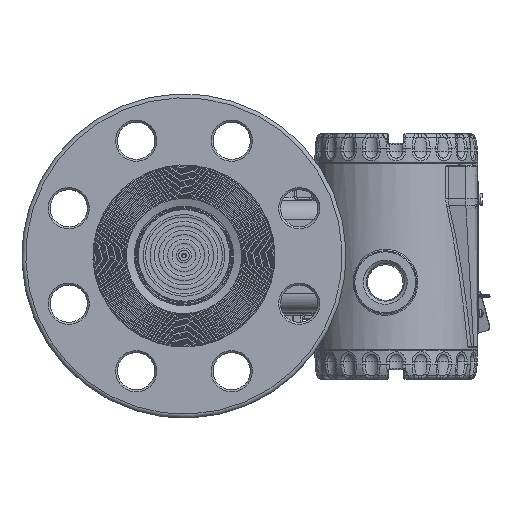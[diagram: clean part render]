
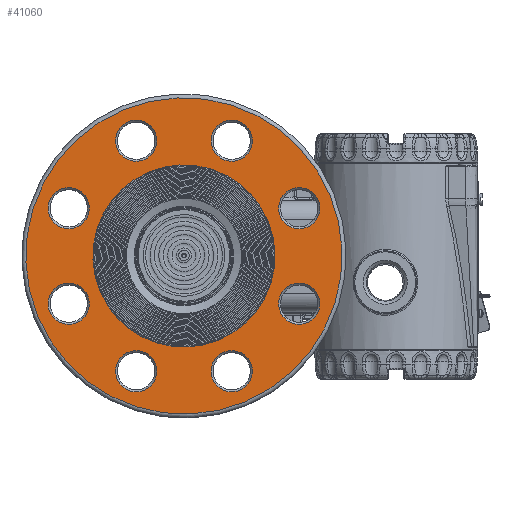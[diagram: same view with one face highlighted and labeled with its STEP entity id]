
A CAD part, top view. The second image highlights one B-rep face of the part: STEP entity #41060.
In plain terms, the highlighted planar face has unit normal (0, 0, 1).
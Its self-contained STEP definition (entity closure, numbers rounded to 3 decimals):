
#690=FACE_BOUND('',#6795,.T.);
#691=FACE_BOUND('',#6796,.T.);
#692=FACE_BOUND('',#6797,.T.);
#693=FACE_BOUND('',#6798,.T.);
#694=FACE_BOUND('',#6799,.T.);
#695=FACE_BOUND('',#6800,.T.);
#696=FACE_BOUND('',#6801,.T.);
#697=FACE_BOUND('',#6802,.T.);
#698=FACE_BOUND('',#6803,.T.);
#2664=PLANE('',#45633);
#4049=FACE_OUTER_BOUND('',#6794,.T.);
#6794=EDGE_LOOP('',(#31290));
#6795=EDGE_LOOP('',(#31291,#31292));
#6796=EDGE_LOOP('',(#31293));
#6797=EDGE_LOOP('',(#31294));
#6798=EDGE_LOOP('',(#31295));
#6799=EDGE_LOOP('',(#31296));
#6800=EDGE_LOOP('',(#31297));
#6801=EDGE_LOOP('',(#31298));
#6802=EDGE_LOOP('',(#31299));
#6803=EDGE_LOOP('',(#31300));
#13537=CIRCLE('',#45630,80.5);
#13539=CIRCLE('',#45634,46.35);
#13540=CIRCLE('',#45635,46.35);
#13541=CIRCLE('',#45636,10.5);
#13542=CIRCLE('',#45637,10.5);
#13543=CIRCLE('',#45638,10.5);
#13544=CIRCLE('',#45639,10.5);
#13545=CIRCLE('',#45640,10.5);
#13546=CIRCLE('',#45641,10.5);
#13547=CIRCLE('',#45642,10.5);
#13548=CIRCLE('',#45643,10.5);
#18007=VERTEX_POINT('',#72568);
#18009=VERTEX_POINT('',#72576);
#18010=VERTEX_POINT('',#72577);
#18011=VERTEX_POINT('',#72580);
#18012=VERTEX_POINT('',#72582);
#18013=VERTEX_POINT('',#72584);
#18014=VERTEX_POINT('',#72586);
#18015=VERTEX_POINT('',#72588);
#18016=VERTEX_POINT('',#72590);
#18017=VERTEX_POINT('',#72592);
#18018=VERTEX_POINT('',#72594);
#22730=EDGE_CURVE('',#18007,#18007,#13537,.T.);
#22733=EDGE_CURVE('',#18009,#18010,#13539,.T.);
#22734=EDGE_CURVE('',#18010,#18009,#13540,.T.);
#22735=EDGE_CURVE('',#18011,#18011,#13541,.T.);
#22736=EDGE_CURVE('',#18012,#18012,#13542,.T.);
#22737=EDGE_CURVE('',#18013,#18013,#13543,.T.);
#22738=EDGE_CURVE('',#18014,#18014,#13544,.T.);
#22739=EDGE_CURVE('',#18015,#18015,#13545,.T.);
#22740=EDGE_CURVE('',#18016,#18016,#13546,.T.);
#22741=EDGE_CURVE('',#18017,#18017,#13547,.T.);
#22742=EDGE_CURVE('',#18018,#18018,#13548,.T.);
#31290=ORIENTED_EDGE('',*,*,#22730,.F.);
#31291=ORIENTED_EDGE('',*,*,#22733,.F.);
#31292=ORIENTED_EDGE('',*,*,#22734,.F.);
#31293=ORIENTED_EDGE('',*,*,#22735,.F.);
#31294=ORIENTED_EDGE('',*,*,#22736,.F.);
#31295=ORIENTED_EDGE('',*,*,#22737,.F.);
#31296=ORIENTED_EDGE('',*,*,#22738,.F.);
#31297=ORIENTED_EDGE('',*,*,#22739,.F.);
#31298=ORIENTED_EDGE('',*,*,#22740,.F.);
#31299=ORIENTED_EDGE('',*,*,#22741,.F.);
#31300=ORIENTED_EDGE('',*,*,#22742,.F.);
#41060=ADVANCED_FACE('',(#4049,#690,#691,#692,#693,#694,#695,#696,#697,
#698),#2664,.T.);
#45630=AXIS2_PLACEMENT_3D('',#72570,#53742,#53743);
#45633=AXIS2_PLACEMENT_3D('',#72575,#53749,#53750);
#45634=AXIS2_PLACEMENT_3D('',#72578,#53751,#53752);
#45635=AXIS2_PLACEMENT_3D('',#72579,#53753,#53754);
#45636=AXIS2_PLACEMENT_3D('',#72581,#53755,#53756);
#45637=AXIS2_PLACEMENT_3D('',#72583,#53757,#53758);
#45638=AXIS2_PLACEMENT_3D('',#72585,#53759,#53760);
#45639=AXIS2_PLACEMENT_3D('',#72587,#53761,#53762);
#45640=AXIS2_PLACEMENT_3D('',#72589,#53763,#53764);
#45641=AXIS2_PLACEMENT_3D('',#72591,#53765,#53766);
#45642=AXIS2_PLACEMENT_3D('',#72593,#53767,#53768);
#45643=AXIS2_PLACEMENT_3D('',#72595,#53769,#53770);
#53742=DIRECTION('center_axis',(0.,0.,-1.));
#53743=DIRECTION('ref_axis',(-1.,0.,0.));
#53749=DIRECTION('center_axis',(0.,0.,1.));
#53750=DIRECTION('ref_axis',(1.,0.,0.));
#53751=DIRECTION('center_axis',(0.,0.,1.));
#53752=DIRECTION('ref_axis',(-1.,0.,0.));
#53753=DIRECTION('center_axis',(0.,0.,1.));
#53754=DIRECTION('ref_axis',(-1.,0.,0.));
#53755=DIRECTION('center_axis',(0.,0.,1.));
#53756=DIRECTION('ref_axis',(0.,1.,0.));
#53757=DIRECTION('center_axis',(0.,0.,1.));
#53758=DIRECTION('ref_axis',(1.,0.,0.));
#53759=DIRECTION('center_axis',(0.,0.,1.));
#53760=DIRECTION('ref_axis',(-1.,0.,0.));
#53761=DIRECTION('center_axis',(0.,0.,1.));
#53762=DIRECTION('ref_axis',(0.707,-0.707,0.));
#53763=DIRECTION('center_axis',(0.,0.,1.));
#53764=DIRECTION('ref_axis',(0.,-1.,0.));
#53765=DIRECTION('center_axis',(0.,0.,1.));
#53766=DIRECTION('ref_axis',(-0.707,-0.707,0.));
#53767=DIRECTION('center_axis',(0.,0.,1.));
#53768=DIRECTION('ref_axis',(0.707,0.707,0.));
#53769=DIRECTION('center_axis',(0.,0.,1.));
#53770=DIRECTION('ref_axis',(-0.707,0.707,0.));
#72568=CARTESIAN_POINT('',(80.5,0.,20.7));
#72570=CARTESIAN_POINT('Origin',(0.,0.,20.7));
#72575=CARTESIAN_POINT('Origin',(0.,0.,
20.7));
#72576=CARTESIAN_POINT('',(46.35,0.,20.7));
#72577=CARTESIAN_POINT('',(-46.35,0.,20.7));
#72578=CARTESIAN_POINT('Origin',(0.,0.,20.7));
#72579=CARTESIAN_POINT('Origin',(0.,0.,20.7));
#72580=CARTESIAN_POINT('',(63.5,-10.5,20.7));
#72581=CARTESIAN_POINT('Origin',(63.5,0.,20.7));
#72582=CARTESIAN_POINT('',(-10.5,-63.5,20.7));
#72583=CARTESIAN_POINT('Origin',(0.,-63.5,20.7));
#72584=CARTESIAN_POINT('',(10.5,63.5,20.7));
#72585=CARTESIAN_POINT('Origin',(0.,63.5,20.7));
#72586=CARTESIAN_POINT('',(-52.326,-37.477,20.7));
#72587=CARTESIAN_POINT('Origin',(-44.901,-44.901,20.7));
#72588=CARTESIAN_POINT('',(-63.5,10.5,20.7));
#72589=CARTESIAN_POINT('Origin',(-63.5,0.,20.7));
#72590=CARTESIAN_POINT('',(-37.477,52.326,20.7));
#72591=CARTESIAN_POINT('Origin',(-44.901,44.901,20.7));
#72592=CARTESIAN_POINT('',(37.477,-52.326,20.7));
#72593=CARTESIAN_POINT('Origin',(44.901,-44.901,20.7));
#72594=CARTESIAN_POINT('',(52.326,37.477,20.7));
#72595=CARTESIAN_POINT('Origin',(44.901,44.901,20.7));
